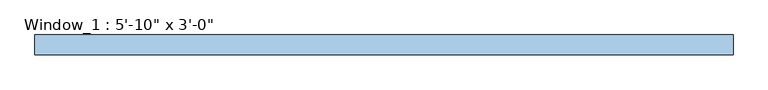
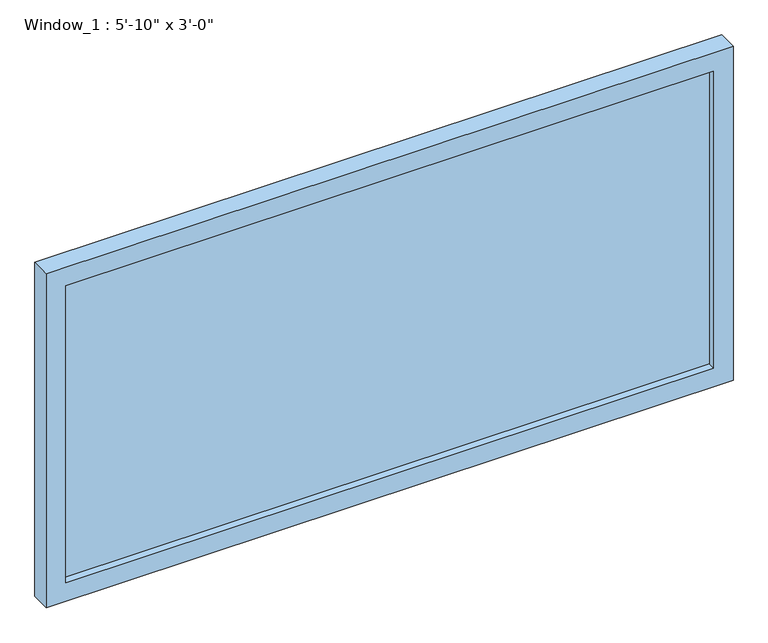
"""IFC4 building model written with IfcOpenShell, lengths in millimetres: window geometry."""

from ifc_helpers import new_model, si_unit, frame, origin, place, context, project, spatial, polyline, outline, extrude, source, transform, mapped, element, save


def window_c256d3ea(model_context):
    return source(origin(), model_context, "Body", "SweptSolid", [
        extrude(outline(polyline([(850.9, 76.2), (-825.5, 76.2), (-825.5, 88.9), (850.9, 88.9), (850.9, 76.2)])), frame((0.0, 0.0, 889.0), z_axis=(0.0, 0.0, 1.0), x_axis=(1.0, 0.0, 0.0)), (0.0, 0.0, 1.0), 812.8),
        extrude(outline(polyline([(1752.6, -876.3), (838.2, -876.3), (838.2, 901.7), (1752.6, 901.7), (1752.6, -876.3)]), holes=[polyline([(1701.8, -825.5), (1701.8, 850.9), (889.0, 850.9), (889.0, -825.5), (1701.8, -825.5)])]), frame((0.0, 57.15, 0.0), z_axis=(0.0, 1.0, 0.0), x_axis=(0.0, 0.0, 1.0)), (0.0, 0.0, 1.0), 50.8),
    ])


if __name__ == "__main__":
    model = new_model("IFC4")
    model_context = context("Model", 3, world=origin())
    ifc_project = project(units=[si_unit("LENGTHUNIT", "METRE", prefix="MILLI")], contexts=[model_context])
    site = spatial("IfcSite", under=ifc_project)
    building = spatial("IfcBuilding", under=site)
    placement = place(None, origin())
    window_shape = window_c256d3ea(model_context)
    element("IfcWindow", 1, ObjectType="Window_1 : 5'-10\" x 3'-0\"", at=placement, inside=building, context=model_context, shape_type="MappedRepresentation", body=[
        mapped(window_shape, transform((0.0, 0.0, 0.0), x_axis=(1.0, 0.0, 0.0), y_axis=(0.0, 1.0, 0.0), z_axis=(0.0, 0.0, 1.0))),
    ])
    save(model, "model.ifc")
